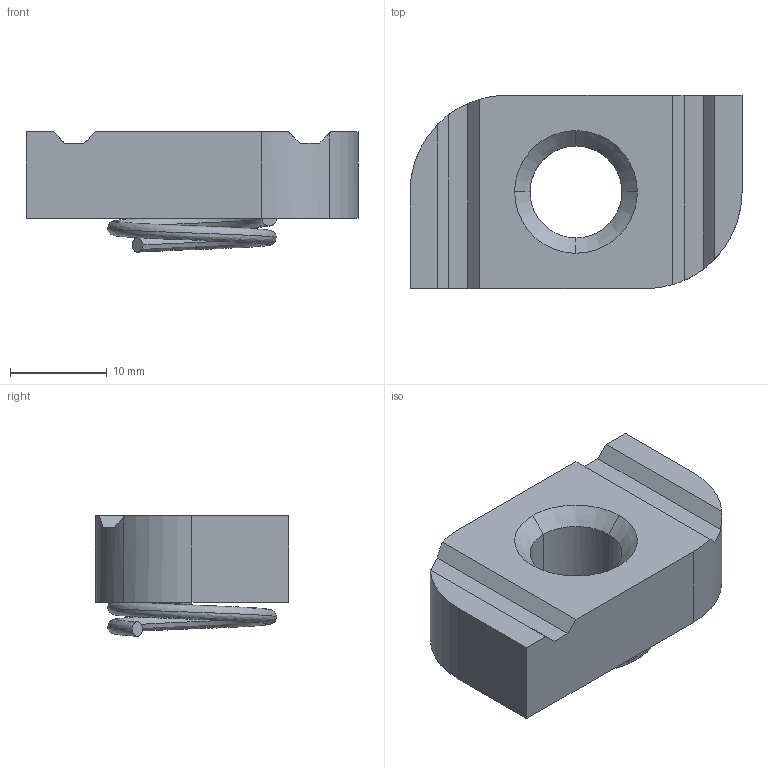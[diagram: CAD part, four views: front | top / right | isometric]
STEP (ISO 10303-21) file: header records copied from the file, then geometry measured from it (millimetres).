
FILE_DESCRIPTION(('TurboCAD Mac Pro'),'Build 980');
FILE_NAME('P4008.stp',' ',(''),(''),'ACIS Interop','IMSI','TurboCAD Mac Pro BY IMSI, INCORPORATED');
FILE_SCHEMA(('automotive_design'));
Length unit declared in the file: inch
Products named in the file (1): 1
Bounding box: 34.4 x 20 x 12.49 mm (x, y, z)
Volume: 5092.6 mm3; surface area: 2591.9 mm2
Topology: 1 solids, 1 shells, 30 faces, 75 edges, 48 vertices
Faces by surface type: plane 16, bspline 10, cylinder 4
Entity records: 2496 total; most frequent: CARTESIAN_POINT 1552, ORIENTED_EDGE 150, DIRECTION 121, EDGE_CURVE 75, VERTEX_POINT 48, LINE 41, VECTOR 41, AXIS2_PLACEMENT_3D 40
